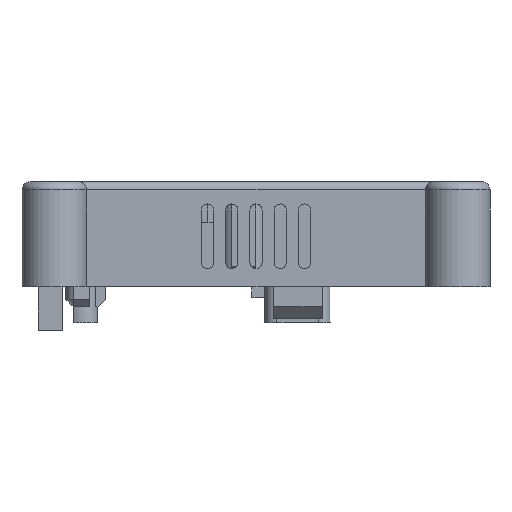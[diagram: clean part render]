
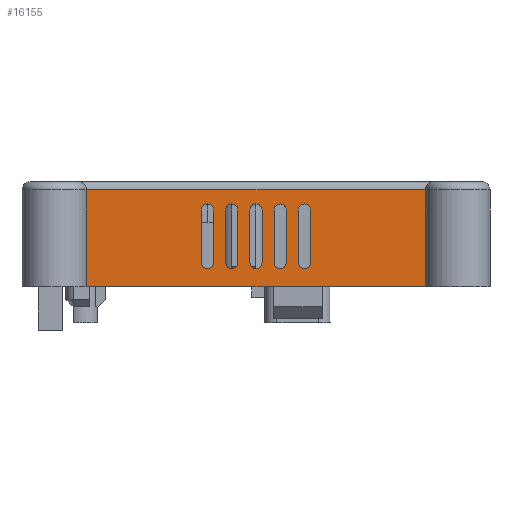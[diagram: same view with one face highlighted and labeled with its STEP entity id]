
A CAD part, left-side view. The second image highlights one B-rep face of the part: STEP entity #16155.
In plain terms, the highlighted planar face has unit normal (-1, 0, 0).
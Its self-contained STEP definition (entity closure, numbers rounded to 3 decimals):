
#785=FACE_BOUND('',#3151,.T.);
#786=FACE_BOUND('',#3152,.T.);
#787=FACE_BOUND('',#3153,.T.);
#788=FACE_BOUND('',#3154,.T.);
#789=FACE_BOUND('',#3155,.T.);
#1285=PLANE('',#17093);
#2126=FACE_OUTER_BOUND('',#3150,.T.);
#3150=EDGE_LOOP('',(#15157,#15158,#15159,#15160));
#3151=EDGE_LOOP('',(#15161,#15162,#15163,#15164));
#3152=EDGE_LOOP('',(#15165,#15166,#15167,#15168));
#3153=EDGE_LOOP('',(#15169,#15170,#15171,#15172));
#3154=EDGE_LOOP('',(#15173,#15174,#15175,#15176));
#3155=EDGE_LOOP('',(#15177,#15178,#15179,#15180));
#3397=CIRCLE('',#16542,0.75);
#3399=CIRCLE('',#16546,0.75);
#3401=CIRCLE('',#16550,0.75);
#3403=CIRCLE('',#16554,0.75);
#3405=CIRCLE('',#16558,0.75);
#3407=CIRCLE('',#16562,0.75);
#3409=CIRCLE('',#16566,0.75);
#3411=CIRCLE('',#16570,0.75);
#3413=CIRCLE('',#16574,0.75);
#3415=CIRCLE('',#16578,0.75);
#3451=LINE('',#20615,#5083);
#3975=LINE('',#22622,#5607);
#4127=LINE('',#23095,#5759);
#4131=LINE('',#23106,#5763);
#4135=LINE('',#23119,#5767);
#4139=LINE('',#23130,#5771);
#4143=LINE('',#23143,#5775);
#4147=LINE('',#23154,#5779);
#4151=LINE('',#23167,#5783);
#4155=LINE('',#23178,#5787);
#4159=LINE('',#23191,#5791);
#4163=LINE('',#23202,#5795);
#5078=LINE('',#27779,#6710);
#5079=LINE('',#27781,#6711);
#5083=VECTOR('',#17109,10.);
#5607=VECTOR('',#18115,10.);
#5759=VECTOR('',#18549,10.);
#5763=VECTOR('',#18561,10.);
#5767=VECTOR('',#18573,10.);
#5771=VECTOR('',#18585,10.);
#5775=VECTOR('',#18597,10.);
#5779=VECTOR('',#18609,10.);
#5783=VECTOR('',#18621,10.);
#5787=VECTOR('',#18633,10.);
#5791=VECTOR('',#18645,10.);
#5795=VECTOR('',#18657,10.);
#6710=VECTOR('',#20588,10.);
#6711=VECTOR('',#20591,10.);
#6712=VERTEX_POINT('',#20602);
#6717=VERTEX_POINT('',#20613);
#7454=VERTEX_POINT('',#22619);
#7455=VERTEX_POINT('',#22621);
#7625=VERTEX_POINT('',#23085);
#7626=VERTEX_POINT('',#23086);
#7629=VERTEX_POINT('',#23094);
#7631=VERTEX_POINT('',#23100);
#7633=VERTEX_POINT('',#23109);
#7634=VERTEX_POINT('',#23110);
#7637=VERTEX_POINT('',#23118);
#7639=VERTEX_POINT('',#23124);
#7641=VERTEX_POINT('',#23133);
#7642=VERTEX_POINT('',#23134);
#7645=VERTEX_POINT('',#23142);
#7647=VERTEX_POINT('',#23148);
#7649=VERTEX_POINT('',#23157);
#7650=VERTEX_POINT('',#23158);
#7653=VERTEX_POINT('',#23166);
#7655=VERTEX_POINT('',#23172);
#7657=VERTEX_POINT('',#23181);
#7658=VERTEX_POINT('',#23182);
#7661=VERTEX_POINT('',#23190);
#7663=VERTEX_POINT('',#23196);
#8257=EDGE_CURVE('',#6717,#6712,#3451,.T.);
#9071=EDGE_CURVE('',#7455,#7454,#3975,.T.);
#9297=EDGE_CURVE('',#7625,#7626,#3397,.T.);
#9301=EDGE_CURVE('',#7629,#7625,#4127,.T.);
#9304=EDGE_CURVE('',#7631,#7629,#3399,.T.);
#9307=EDGE_CURVE('',#7626,#7631,#4131,.T.);
#9309=EDGE_CURVE('',#7633,#7634,#3401,.T.);
#9313=EDGE_CURVE('',#7637,#7633,#4135,.T.);
#9316=EDGE_CURVE('',#7639,#7637,#3403,.T.);
#9319=EDGE_CURVE('',#7634,#7639,#4139,.T.);
#9321=EDGE_CURVE('',#7641,#7642,#3405,.T.);
#9325=EDGE_CURVE('',#7645,#7641,#4143,.T.);
#9328=EDGE_CURVE('',#7647,#7645,#3407,.T.);
#9331=EDGE_CURVE('',#7642,#7647,#4147,.T.);
#9333=EDGE_CURVE('',#7649,#7650,#3409,.T.);
#9337=EDGE_CURVE('',#7653,#7649,#4151,.T.);
#9340=EDGE_CURVE('',#7655,#7653,#3411,.T.);
#9343=EDGE_CURVE('',#7650,#7655,#4155,.T.);
#9345=EDGE_CURVE('',#7657,#7658,#3413,.T.);
#9349=EDGE_CURVE('',#7661,#7657,#4159,.T.);
#9352=EDGE_CURVE('',#7663,#7661,#3415,.T.);
#9355=EDGE_CURVE('',#7658,#7663,#4163,.T.);
#10559=EDGE_CURVE('',#6717,#7455,#5078,.T.);
#10560=EDGE_CURVE('',#7454,#6712,#5079,.T.);
#15157=ORIENTED_EDGE('',*,*,#8257,.F.);
#15158=ORIENTED_EDGE('',*,*,#10559,.T.);
#15159=ORIENTED_EDGE('',*,*,#9071,.T.);
#15160=ORIENTED_EDGE('',*,*,#10560,.T.);
#15161=ORIENTED_EDGE('',*,*,#9297,.T.);
#15162=ORIENTED_EDGE('',*,*,#9307,.T.);
#15163=ORIENTED_EDGE('',*,*,#9304,.T.);
#15164=ORIENTED_EDGE('',*,*,#9301,.T.);
#15165=ORIENTED_EDGE('',*,*,#9309,.T.);
#15166=ORIENTED_EDGE('',*,*,#9319,.T.);
#15167=ORIENTED_EDGE('',*,*,#9316,.T.);
#15168=ORIENTED_EDGE('',*,*,#9313,.T.);
#15169=ORIENTED_EDGE('',*,*,#9321,.T.);
#15170=ORIENTED_EDGE('',*,*,#9331,.T.);
#15171=ORIENTED_EDGE('',*,*,#9328,.T.);
#15172=ORIENTED_EDGE('',*,*,#9325,.T.);
#15173=ORIENTED_EDGE('',*,*,#9333,.T.);
#15174=ORIENTED_EDGE('',*,*,#9343,.T.);
#15175=ORIENTED_EDGE('',*,*,#9340,.T.);
#15176=ORIENTED_EDGE('',*,*,#9337,.T.);
#15177=ORIENTED_EDGE('',*,*,#9345,.T.);
#15178=ORIENTED_EDGE('',*,*,#9355,.T.);
#15179=ORIENTED_EDGE('',*,*,#9352,.T.);
#15180=ORIENTED_EDGE('',*,*,#9349,.T.);
#16155=ADVANCED_FACE('',(#2126,#785,#786,#787,#788,#789),#1285,.T.);
#16542=AXIS2_PLACEMENT_3D('',#23087,#18541,#18542);
#16546=AXIS2_PLACEMENT_3D('',#23101,#18554,#18555);
#16550=AXIS2_PLACEMENT_3D('',#23111,#18565,#18566);
#16554=AXIS2_PLACEMENT_3D('',#23125,#18578,#18579);
#16558=AXIS2_PLACEMENT_3D('',#23135,#18589,#18590);
#16562=AXIS2_PLACEMENT_3D('',#23149,#18602,#18603);
#16566=AXIS2_PLACEMENT_3D('',#23159,#18613,#18614);
#16570=AXIS2_PLACEMENT_3D('',#23173,#18626,#18627);
#16574=AXIS2_PLACEMENT_3D('',#23183,#18637,#18638);
#16578=AXIS2_PLACEMENT_3D('',#23197,#18650,#18651);
#17093=AXIS2_PLACEMENT_3D('',#27785,#20598,#20599);
#17109=DIRECTION('',(0.,-1.,0.));
#18115=DIRECTION('',(0.,-1.,0.));
#18541=DIRECTION('center_axis',(1.,0.,0.));
#18542=DIRECTION('ref_axis',(0.,1.,0.));
#18549=DIRECTION('',(0.,0.,-1.));
#18554=DIRECTION('center_axis',(1.,0.,0.));
#18555=DIRECTION('ref_axis',(0.,-1.,0.));
#18561=DIRECTION('',(0.,0.,1.));
#18565=DIRECTION('center_axis',(1.,0.,0.));
#18566=DIRECTION('ref_axis',(0.,1.,0.));
#18573=DIRECTION('',(0.,0.,1.));
#18578=DIRECTION('center_axis',(1.,0.,0.));
#18579=DIRECTION('ref_axis',(0.,-1.,0.));
#18585=DIRECTION('',(0.,0.,-1.));
#18589=DIRECTION('center_axis',(1.,0.,0.));
#18590=DIRECTION('ref_axis',(0.,1.,0.));
#18597=DIRECTION('',(0.,0.,-1.));
#18602=DIRECTION('center_axis',(1.,0.,0.));
#18603=DIRECTION('ref_axis',(0.,-1.,0.));
#18609=DIRECTION('',(0.,0.,1.));
#18613=DIRECTION('center_axis',(1.,0.,0.));
#18614=DIRECTION('ref_axis',(0.,1.,0.));
#18621=DIRECTION('',(0.,0.,-1.));
#18626=DIRECTION('center_axis',(1.,0.,0.));
#18627=DIRECTION('ref_axis',(0.,-1.,0.));
#18633=DIRECTION('',(0.,0.,1.));
#18637=DIRECTION('center_axis',(1.,0.,0.));
#18638=DIRECTION('ref_axis',(0.,1.,0.));
#18645=DIRECTION('',(0.,0.,-1.));
#18650=DIRECTION('center_axis',(1.,0.,0.));
#18651=DIRECTION('ref_axis',(0.,-1.,0.));
#18657=DIRECTION('',(0.,0.,1.));
#20588=DIRECTION('',(0.,0.,-1.));
#20591=DIRECTION('',(0.,0.,1.));
#20598=DIRECTION('center_axis',(-1.,0.,0.));
#20599=DIRECTION('ref_axis',(0.,-1.,0.));
#20602=CARTESIAN_POINT('',(-53.,-21.,12.));
#20613=CARTESIAN_POINT('',(-53.,21.,12.));
#20615=CARTESIAN_POINT('',(-53.,14.5,12.));
#22619=CARTESIAN_POINT('',(-53.,-21.,0.));
#22621=CARTESIAN_POINT('',(-53.,21.,0.));
#22622=CARTESIAN_POINT('',(-53.,29.,0.));
#23085=CARTESIAN_POINT('',(-53.,-3.75,3.));
#23086=CARTESIAN_POINT('',(-53.,-2.25,3.));
#23087=CARTESIAN_POINT('Origin',(-53.,-3.,3.));
#23094=CARTESIAN_POINT('',(-53.,-3.75,9.5));
#23095=CARTESIAN_POINT('',(-53.,-3.75,4.75));
#23100=CARTESIAN_POINT('',(-53.,-2.25,9.5));
#23101=CARTESIAN_POINT('Origin',(-53.,-3.,9.5));
#23106=CARTESIAN_POINT('',(-53.,-2.25,1.5));
#23109=CARTESIAN_POINT('',(-53.,3.75,9.5));
#23110=CARTESIAN_POINT('',(-53.,2.25,9.5));
#23111=CARTESIAN_POINT('Origin',(-53.,3.,9.5));
#23118=CARTESIAN_POINT('',(-53.,3.75,3.));
#23119=CARTESIAN_POINT('',(-53.,3.75,1.5));
#23124=CARTESIAN_POINT('',(-53.,2.25,3.));
#23125=CARTESIAN_POINT('Origin',(-53.,3.,3.));
#23130=CARTESIAN_POINT('',(-53.,2.25,4.75));
#23133=CARTESIAN_POINT('',(-53.,-0.75,3.));
#23134=CARTESIAN_POINT('',(-53.,0.75,3.));
#23135=CARTESIAN_POINT('Origin',(-53.,0.,3.));
#23142=CARTESIAN_POINT('',(-53.,-0.75,9.5));
#23143=CARTESIAN_POINT('',(-53.,-0.75,4.75));
#23148=CARTESIAN_POINT('',(-53.,0.75,9.5));
#23149=CARTESIAN_POINT('Origin',(-53.,0.,9.5));
#23154=CARTESIAN_POINT('',(-53.,0.75,1.5));
#23157=CARTESIAN_POINT('',(-53.,5.25,3.));
#23158=CARTESIAN_POINT('',(-53.,6.75,3.));
#23159=CARTESIAN_POINT('Origin',(-53.,6.,3.));
#23166=CARTESIAN_POINT('',(-53.,5.25,9.5));
#23167=CARTESIAN_POINT('',(-53.,5.25,4.75));
#23172=CARTESIAN_POINT('',(-53.,6.75,9.5));
#23173=CARTESIAN_POINT('Origin',(-53.,6.,9.5));
#23178=CARTESIAN_POINT('',(-53.,6.75,1.5));
#23181=CARTESIAN_POINT('',(-53.,-6.75,3.));
#23182=CARTESIAN_POINT('',(-53.,-5.25,3.));
#23183=CARTESIAN_POINT('Origin',(-53.,-6.,3.));
#23190=CARTESIAN_POINT('',(-53.,-6.75,9.5));
#23191=CARTESIAN_POINT('',(-53.,-6.75,4.75));
#23196=CARTESIAN_POINT('',(-53.,-5.25,9.5));
#23197=CARTESIAN_POINT('Origin',(-53.,-6.,9.5));
#23202=CARTESIAN_POINT('',(-53.,-5.25,1.5));
#27779=CARTESIAN_POINT('',(-53.,21.,0.));
#27781=CARTESIAN_POINT('',(-53.,-21.,6.5));
#27785=CARTESIAN_POINT('Origin',(-53.,29.,0.));
